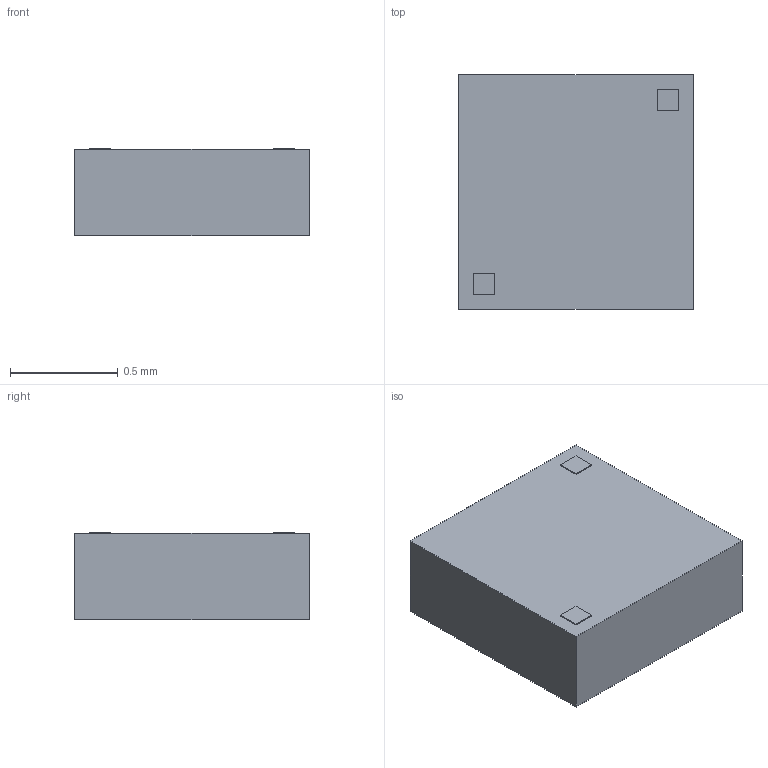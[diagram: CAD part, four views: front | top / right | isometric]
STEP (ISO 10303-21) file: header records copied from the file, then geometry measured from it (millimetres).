
FILE_DESCRIPTION(/* description */ (''),/* implementation_level */ '2;1');
FILE_NAME(/* name */ 'S:\DOCUMENT\AUTOCAD\3D_Modèles\10_3D-pour-VISHAY-COM\44\CS44.stp',/* time_stamp */ '2018-01-22T15:29:39+01:00',/* author */ ('dparmentier'),/* organization */ ('unknown'),/* preprocessor_version */ 'ST-DEVELOPER v17',/* originating_system */ 'Autodesk Inventor 2018',/* authorisation */ '');
FILE_SCHEMA (('AUTOMOTIVE_DESIGN { 1 0 10303 214 3 1 1 }'));
Length unit declared in the file: millimetre
Products named in the file (1): CS44
Bounding box: 1.09 x 1.09 x 0.41 mm (x, y, z)
Volume: 0.5 mm3; surface area: 4.2 mm2
Topology: 3 solids, 3 shells, 18 faces, 36 edges, 24 vertices
Faces by surface type: plane 18
Entity records: 511 total; most frequent: CARTESIAN_POINT 79, DIRECTION 74, ORIENTED_EDGE 72, LINE 36, VECTOR 36, EDGE_CURVE 36, VERTEX_POINT 24, AXIS2_PLACEMENT_3D 19
